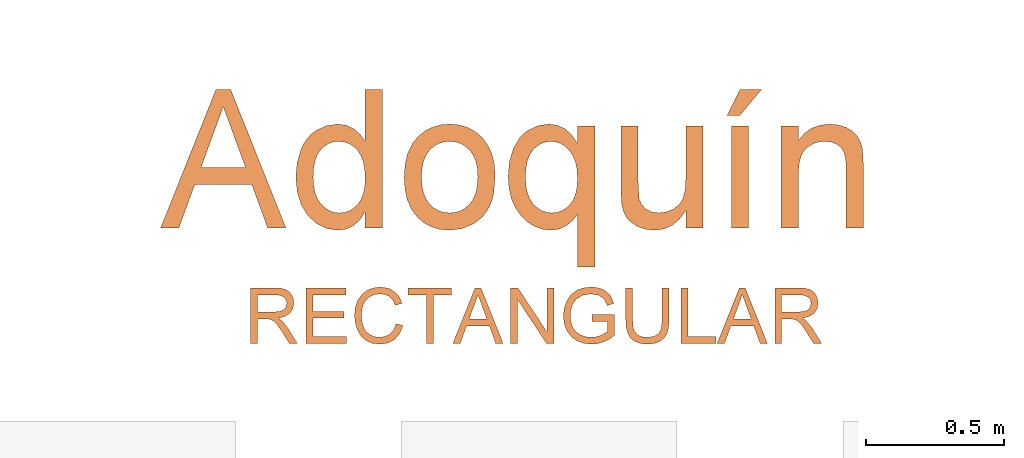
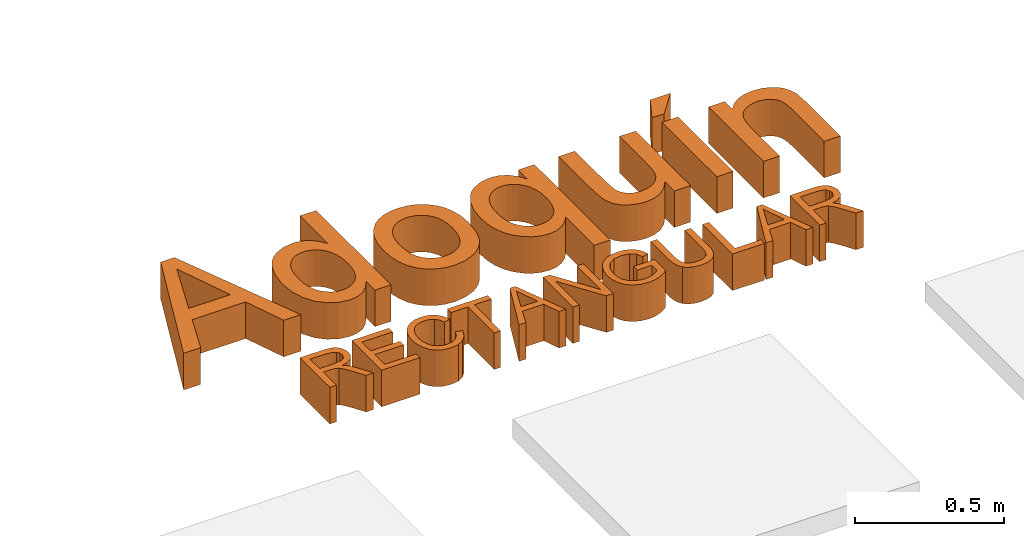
# One storey, part 10 of 19: 2 proxies.
"""IFC2X3 building model written with IfcOpenShell, lengths in metres."""

from ifc_helpers import new_model, entity, si_unit, converted_unit, derived_unit, direction, frame, origin, origin_2d_with_axis, place, context, subcontext, project, spatial, polyline, rectangle, outline, extrude, type_object, element, save


model = new_model("IFC2X3")

# Units and contexts
model_context = context("Model", 3, precision=1e-05, world=origin(), true_north=direction((6.12303176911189e-17, 1.0)))
body_context = subcontext(model_context, "Body", "Model", "MODEL_VIEW")
ifc_project = project(units=[si_unit("LENGTHUNIT", "METRE"), si_unit("AREAUNIT", "SQUARE_METRE"), si_unit("VOLUMEUNIT", "CUBIC_METRE"), converted_unit("PLANEANGLEUNIT", "DEGREE", entity("IfcRatioMeasure", 0.0174532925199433), si_unit("PLANEANGLEUNIT", "RADIAN"), dimensions=[0, 0, 0, 0, 0, 0, 0]), si_unit("MASSUNIT", "GRAM", prefix="KILO"), derived_unit("MASSDENSITYUNIT", [(si_unit("MASSUNIT", "GRAM", prefix="KILO"), 1), (si_unit("LENGTHUNIT", "METRE"), -3)]), derived_unit("MOMENTOFINERTIAUNIT", [(si_unit("LENGTHUNIT", "METRE"), 4)]), si_unit("TIMEUNIT", "SECOND"), si_unit("FREQUENCYUNIT", "HERTZ"), si_unit("THERMODYNAMICTEMPERATUREUNIT", "DEGREE_CELSIUS"), derived_unit("THERMALTRANSMITTANCEUNIT", [(si_unit("MASSUNIT", "GRAM", prefix="KILO"), 1), (si_unit("THERMODYNAMICTEMPERATUREUNIT", "KELVIN"), -1), (si_unit("TIMEUNIT", "SECOND"), -3)]), derived_unit("VOLUMETRICFLOWRATEUNIT", [(si_unit("LENGTHUNIT", "METRE"), 3), (si_unit("TIMEUNIT", "SECOND"), -1)]), si_unit("ELECTRICCURRENTUNIT", "AMPERE"), si_unit("ELECTRICVOLTAGEUNIT", "VOLT"), si_unit("POWERUNIT", "WATT"), si_unit("FORCEUNIT", "NEWTON", prefix="KILO"), si_unit("ILLUMINANCEUNIT", "LUX"), si_unit("LUMINOUSFLUXUNIT", "LUMEN"), si_unit("LUMINOUSINTENSITYUNIT", "CANDELA"), derived_unit("USERDEFINED", [(si_unit("MASSUNIT", "GRAM", prefix="KILO"), -1), (si_unit("LENGTHUNIT", "METRE"), -2), (si_unit("TIMEUNIT", "SECOND"), 3), (si_unit("LUMINOUSFLUXUNIT", "LUMEN"), 1)]), derived_unit("LINEARVELOCITYUNIT", [(si_unit("LENGTHUNIT", "METRE"), 1), (si_unit("TIMEUNIT", "SECOND"), -1)]), si_unit("PRESSUREUNIT", "PASCAL"), derived_unit("USERDEFINED", [(si_unit("LENGTHUNIT", "METRE"), -2), (si_unit("MASSUNIT", "GRAM", prefix="KILO"), 1), (si_unit("TIMEUNIT", "SECOND"), -2)]), derived_unit("LINEARFORCEUNIT", [(si_unit("MASSUNIT", "GRAM", prefix="KILO"), 1), (si_unit("LENGTHUNIT", "METRE"), 1), (si_unit("TIMEUNIT", "SECOND"), -2), (si_unit("LENGTHUNIT", "METRE"), -1)]), derived_unit("PLANARFORCEUNIT", [(si_unit("MASSUNIT", "GRAM", prefix="KILO"), 1), (si_unit("LENGTHUNIT", "METRE"), 1), (si_unit("TIMEUNIT", "SECOND"), -2), (si_unit("LENGTHUNIT", "METRE"), -2)])], contexts=[model_context])

# Site, building, storey
site_placement = place(None, origin())
site = spatial("IfcSite", under=ifc_project, at=site_placement, Name="Default", CompositionType="ELEMENT")
building_placement = place(site_placement, origin())
building = spatial("IfcBuilding", under=site, at=building_placement, CompositionType="ELEMENT")
storey_placement = place(building_placement, origin())
storey = spatial("IfcBuildingStorey", under=building, at=storey_placement, Name="Nivel 1", CompositionType="ELEMENT", Elevation=0.0)

# Proxies
building_element_proxy_type_1 = type_object("IfcBuildingElementProxyType", Name="Texto de modelo:Título", PredefinedType="NOTDEFINED")
proxy_1_placement = place(storey_placement, origin())
element("IfcBuildingElementProxy", 1, at=proxy_1_placement, inside=storey, type_object=building_element_proxy_type_1, Name="Texto de modelo:Título", ObjectType="Texto de modelo:Título", context=body_context, shape_type="SweptSolid", body=[
    extrude(outline(polyline([(-0.227151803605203, -0.164811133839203), (-0.160933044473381, -0.164811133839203), (-0.103543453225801, -0.00784814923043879), (0.103451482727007, -0.00784814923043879), (0.160841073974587, -0.164811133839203), (0.227182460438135, -0.164811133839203), (0.026809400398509, 0.337470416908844), (-0.0266561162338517, 0.337470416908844), (-0.227151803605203, -0.164811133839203)]), holes=[polyline([(-0.0804895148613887, 0.0549370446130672), (-0.0313159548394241, 0.189213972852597), (-4.59852493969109e-05, 0.274685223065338), (0.0351480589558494, 0.178422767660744), (0.0805201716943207, 0.0549370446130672), (-0.0804895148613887, 0.0549370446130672)])]), frame((1.70713557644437, 3.07833883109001, 0.0)), (0.0, 0.0, 1.0), 0.15),
    extrude(outline(polyline([(0.11160279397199, -0.204691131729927), (0.174387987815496, -0.204691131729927), (0.174387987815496, 0.29759041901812), (0.11160279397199, 0.29759041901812), (0.11160279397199, 0.110461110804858), (0.093300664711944, 0.135247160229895), (0.0702773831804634, 0.154913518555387), (0.0431154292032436, 0.167743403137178), (0.0123972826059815, 0.172020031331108), (-0.0297711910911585, 0.166041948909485), (-0.0677396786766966, 0.148107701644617), (-0.084554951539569, 0.134840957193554), (-0.0991322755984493, 0.118953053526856), (-0.111471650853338, 0.100443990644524), (-0.121573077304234, 0.0793137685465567), (-0.135046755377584, 0.0318876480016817), (-0.139537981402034, -0.0206275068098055), (-0.134663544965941, -0.0738017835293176), (-0.120040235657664, -0.120507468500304), (-0.096557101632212, -0.159181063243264), (-0.0651031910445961, -0.188259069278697), (-0.0279471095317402, -0.206469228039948), (0.0126425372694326, -0.212539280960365), (0.0433376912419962, -0.208346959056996), (0.0700627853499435, -0.19576999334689), (0.0928178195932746, -0.174808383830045), (0.11160279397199, -0.145462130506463), (0.11160279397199, -0.204691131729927)]), holes=[polyline([(-0.0767527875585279, -0.0203822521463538), (-0.0750973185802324, 0.0109681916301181), (-0.0701309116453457, 0.0378197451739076), (-0.0618535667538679, 0.0601724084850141), (-0.050265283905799, 0.0780261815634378), (-0.0362014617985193, 0.0916799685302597), (-0.0204974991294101, 0.101432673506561), (-0.00315339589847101, 0.107284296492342), (0.0158308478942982, 0.109234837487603), (0.035263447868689, 0.107203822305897), (0.0530942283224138, 0.101110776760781), (0.0693231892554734, 0.0909557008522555), (0.0839503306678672, 0.0767385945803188), (0.0960482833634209, 0.0581835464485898), (0.104689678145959, 0.0350146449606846), (0.109874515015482, 0.00723189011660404), (0.11160279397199, -0.0251647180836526), (0.109905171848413, -0.0547140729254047), (0.104812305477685, -0.0802090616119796), (0.0963241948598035, -0.101649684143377), (0.0844408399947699, -0.119035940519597), (0.0701279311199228, -0.132475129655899), (0.0543511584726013, -0.142074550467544), (0.0371105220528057, -0.14783420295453), (0.0184060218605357, -0.149754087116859), (-0.000210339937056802, -0.147742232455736), (-0.0175544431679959, -0.141706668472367), (-0.033626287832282, -0.131647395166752), (-0.048425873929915, -0.11756441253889), (-0.0608188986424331, -0.0994193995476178), (-0.0696710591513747, -0.0771740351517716), (-0.0749823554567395, -0.0508283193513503), (-0.0767527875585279, -0.0203822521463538)])]), frame((2.10954057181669, 3.11821882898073, 0.0)), (0.0, 0.0, 1.0), 0.15),
    extrude(outline(polyline([(-0.0131957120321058, -0.170548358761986), (0.0307665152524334, -0.170548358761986), (0.0696520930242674, -0.164512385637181), (0.103461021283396, -0.152440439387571), (0.132193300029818, -0.134332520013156), (0.155411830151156, -0.111243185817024), (0.172679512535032, -0.0842269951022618), (0.183996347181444, -0.0532839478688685), (0.189362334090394, -0.0184140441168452), (0.186618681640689, 0.0261717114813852), (0.172415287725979, 0.067906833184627), (0.161237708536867, 0.086976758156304), (0.147638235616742, 0.103876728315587), (0.131616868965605, 0.118606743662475), (0.113173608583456, 0.131166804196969), (0.0915479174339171, 0.141494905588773), (0.0659792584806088, 0.149529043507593), (0.00301303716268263, 0.158715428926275), (-0.0385534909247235, 0.158529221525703), (-0.0757586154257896, 0.15229201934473), (-0.108602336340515, 0.140003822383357), (-0.137084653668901, 0.121664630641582), (-0.160392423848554, 0.0984428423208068), (-0.177712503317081, 0.0715068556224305), (-0.189044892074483, 0.0408566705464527), (-0.194389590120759, 0.00649228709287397), (-0.1938749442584, -0.024984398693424), (-0.18810582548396, -0.0543136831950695), (-0.177082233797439, -0.0814955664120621), (-0.160804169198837, -0.106530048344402), (-0.134450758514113, -0.132057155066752), (-0.101064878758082, -0.151235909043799), (-0.060646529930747, -0.164066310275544), (-0.0131957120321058, -0.170548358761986)]), holes=[polyline([(-0.00925174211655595, -0.107887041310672), (-0.0395162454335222, -0.104102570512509), (-0.0654537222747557, -0.0969584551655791), (-0.0870641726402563, -0.0864546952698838), (-0.104347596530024, -0.0725912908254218), (-0.117399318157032, -0.0562452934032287), (-0.126314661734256, -0.0382937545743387), (-0.131093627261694, -0.0187366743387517), (-0.131736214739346, 0.00242594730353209), (-0.128372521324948, 0.0230712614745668), (-0.121092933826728, 0.0416882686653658), (-0.109897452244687, 0.0582769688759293), (-0.0947860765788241, 0.0728373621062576), (-0.0759345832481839, 0.0844361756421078), (-0.0535187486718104, 0.0921401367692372), (-0.0275385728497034, 0.0959492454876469), (0.00200594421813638, 0.0958635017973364), (0.0329855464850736, 0.0920326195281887), (0.0594775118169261, 0.0848525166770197), (0.0814818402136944, 0.07432319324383), (0.0989985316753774, 0.0604446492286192), (0.112185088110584, 0.0441052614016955), (0.121199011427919, 0.0261934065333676), (0.126040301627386, 0.00670908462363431), (0.126708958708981, -0.0143477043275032), (0.123328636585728, -0.0352492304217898), (0.116038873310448, -0.0540230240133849), (0.10483966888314, -0.0706690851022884), (0.0897310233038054, -0.0851874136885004), (0.070747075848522, -0.0966969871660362), (0.0479219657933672, -0.10431678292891), (0.0212556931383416, -0.108046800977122), (-0.00925174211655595, -0.107887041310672)])]), frame((2.53345497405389, 3.09583691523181, 0.0), z_axis=(0.0, 0.0, 1.0), x_axis=(0.0647659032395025, -0.997900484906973, 0.0)), (0.0, 0.0, 1.0), 0.15),
    extrude(outline(polyline([(0.113122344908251, -0.311998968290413), (0.175907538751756, -0.311998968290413), (0.175907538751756, 0.198130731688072), (0.113122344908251, 0.198130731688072), (0.113122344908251, 0.135590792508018), (0.0926742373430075, 0.166385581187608), (0.0687312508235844, 0.188381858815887), (0.041293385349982, 0.201579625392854), (0.0103606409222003, 0.20597888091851), (-0.0296465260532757, 0.200307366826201), (-0.0662814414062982, 0.183292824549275), (-0.0827211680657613, 0.170616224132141), (-0.0970915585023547, 0.155272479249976), (-0.119624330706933, 0.11658355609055), (-0.133419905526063, 0.0697092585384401), (-0.138018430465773, 0.0171327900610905), (-0.135121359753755, -0.025997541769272), (-0.126430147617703, -0.0642764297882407), (-0.111944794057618, -0.097703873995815), (-0.091665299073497, -0.126279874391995), (-0.0673774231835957, -0.149161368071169), (-0.0408669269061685, -0.165505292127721), (-0.0121338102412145, -0.175311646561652), (0.0188219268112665, -0.178580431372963), (0.0468422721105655, -0.174441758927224), (0.0732684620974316, -0.162025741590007), (0.096046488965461, -0.143355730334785), (0.113122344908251, -0.12045507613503), (0.113122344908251, -0.311998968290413)]), holes=[polyline([(-0.0752332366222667, 0.0136992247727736), (-0.073558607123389, 0.0447967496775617), (-0.0685347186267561, 0.0715026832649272), (-0.0601615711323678, 0.0938170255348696), (-0.0484391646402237, 0.111739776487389), (-0.034310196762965, 0.125500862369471), (-0.018717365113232, 0.1353302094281), (-0.00166066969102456, 0.141227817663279), (0.0168598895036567, 0.143193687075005), (0.0356103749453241, 0.141082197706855), (0.0531115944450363, 0.134747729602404), (0.0693635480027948, 0.124190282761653), (0.084366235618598, 0.109409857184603), (0.0969470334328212, 0.0904447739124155), (0.105933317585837, 0.067333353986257), (0.111325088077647, 0.0400755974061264), (0.113122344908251, 0.00867150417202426), (0.111417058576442, -0.0207743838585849), (0.106301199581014, -0.0462042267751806), (0.0977747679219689, -0.0676180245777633), (0.0858377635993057, -0.085015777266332), (0.0715401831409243, -0.0984817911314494), (0.0559320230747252, -0.108100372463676), (0.0390132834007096, -0.113871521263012), (0.0207839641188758, -0.115795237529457), (0.00174223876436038, -0.113771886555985), (-0.0158969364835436, -0.107701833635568), (-0.0321335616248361, -0.0975850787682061), (-0.0469676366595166, -0.0834216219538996), (-0.0593338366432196, -0.0652114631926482), (-0.0681668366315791, -0.0429546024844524), (-0.0734666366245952, -0.0166510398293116), (-0.0752332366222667, 0.0136992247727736)])]), frame((2.87713964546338, 3.08425997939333, 0.0)), (0.0, 0.0, 1.0), 0.15),
    extrude(outline(polyline([(0.0993741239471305, -0.10269783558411), (0.162159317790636, -0.10269783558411), (0.162159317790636, 0.266165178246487), (0.0993741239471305, 0.266165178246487), (0.0993741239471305, 0.0742534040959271), (0.0968296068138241, 0.0338323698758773), (0.0891960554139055, 0.00429451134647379), (0.0754464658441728, -0.0172725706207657), (0.0545538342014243, -0.0337812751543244), (0.029215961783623, -0.0442659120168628), (0.00213064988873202, -0.0477607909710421), (-0.0234831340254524, -0.0443425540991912), (-0.044651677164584, -0.0340878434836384), (-0.0603326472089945, -0.0178550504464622), (-0.0694837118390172, 0.0034974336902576), (-0.0732851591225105, 0.0675089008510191), (-0.0732851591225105, 0.266165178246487), (-0.136070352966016, 0.266165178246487), (-0.136070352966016, 0.0379557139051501), (-0.132391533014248, -0.0204148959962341), (-0.125018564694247, -0.0456454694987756), (-0.113690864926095, -0.0666454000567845), (-0.0968602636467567, -0.0839358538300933), (-0.072978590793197, -0.0980379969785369), (-0.0445137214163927, -0.107418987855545), (-0.0139335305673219, -0.110545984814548), (0.0200035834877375, -0.106093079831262), (0.0502005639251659, -0.0927343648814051), (0.0766574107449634, -0.0704698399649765), (0.0993741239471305, -0.0392995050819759), (0.0993741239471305, -0.10269783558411)])), frame((3.28329532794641, 3.01622553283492, 0.0)), (0.0, 0.0, 1.0), 0.15),
    extrude(outline(polyline([(-0.0549370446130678, -0.0470888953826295), (-0.00784814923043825, -0.0470888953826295), (0.0706333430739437, 0.0470888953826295), (-0.00784814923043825, 0.0470888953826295), (-0.0549370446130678, -0.0470888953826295)])), frame((3.58672133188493, 3.36872035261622, 0.0)), (0.0, 0.0, 1.0), 0.15),
    extrude(outline(polyline([(-0.160354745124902, -0.269066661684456), (-0.0975695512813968, -0.269066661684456), (-0.0975695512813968, -0.0733534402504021), (-0.0957799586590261, -0.0416619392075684), (-0.090411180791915, -0.0155039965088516), (-0.0814632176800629, 0.0051203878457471), (-0.0689360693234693, 0.0202112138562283), (-0.0539410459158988, 0.0309947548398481), (-0.0375894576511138, 0.0386972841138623), (-0.0198813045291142, 0.0433188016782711), (-0.000816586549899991, 0.0448593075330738), (0.0223446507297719, 0.0421155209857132), (0.0422869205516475, 0.0338841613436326), (0.0578452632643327, 0.021054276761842), (0.0678547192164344, 0.00451491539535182), (0.0732809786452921, -0.0185696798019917), (0.0750897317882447, -0.0510352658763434), (0.0750897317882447, -0.269066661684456), (0.137874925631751, -0.269066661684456), (0.137874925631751, -0.0425739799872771), (0.134563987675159, 0.0181265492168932), (0.127160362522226, 0.0430352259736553), (0.11574069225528, 0.0642957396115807), (0.098910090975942, 0.0818621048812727), (0.0752736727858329, 0.0956883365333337), (0.0469314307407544, 0.104655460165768), (0.0159833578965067, 0.107644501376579), (-0.0189807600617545, 0.10393502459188), (-0.0495609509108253, 0.0928065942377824), (-0.0757572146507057, 0.0742592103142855), (-0.0975695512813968, 0.0482928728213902), (-0.0975695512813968, 0.099796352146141), (-0.160354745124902, 0.099796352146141), (-0.160354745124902, -0.269066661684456)])), frame((3.88834276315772, 3.18259435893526, 0.0)), (0.0, 0.0, 1.0), 0.15),
    extrude(rectangle(XDim=0.062785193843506, YDim=0.368863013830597, at=origin_2d_with_axis()), frame((3.57887318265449, 3.09795920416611, 0.0)), (0.0, 0.0, 1.0), 0.15),
])
building_element_proxy_type_2 = type_object("IfcBuildingElementProxyType", Name="Texto de modelo:Subtítulo", PredefinedType="NOTDEFINED")
proxy_2_placement = place(storey_placement, origin())
element("IfcBuildingElementProxy", 2, at=proxy_2_placement, inside=storey, type_object=building_element_proxy_type_2, Name="Texto de modelo:Subtítulo", ObjectType="Texto de modelo:Subtítulo", context=body_context, shape_type="SweptSolid", body=[
    extrude(outline(polyline([(-0.103134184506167, -0.103507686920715), (-0.0780201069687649, -0.103507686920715), (-0.0780201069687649, -0.0156084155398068), (-0.0477066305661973, -0.0156084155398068), (-0.0331385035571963, -0.0164913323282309), (-0.0211946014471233, -0.0212737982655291), (-0.00792632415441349, -0.0342968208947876), (0.0109582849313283, -0.0618634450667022), (0.0371024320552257, -0.103507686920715), (0.066287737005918, -0.103507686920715), (0.0327859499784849, -0.0490611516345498), (0.0124298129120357, -0.0232113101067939), (-0.00184400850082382, -0.0124691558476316), (0.0228960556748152, -0.00581049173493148), (0.0402171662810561, 0.00621924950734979), (0.050425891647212, 0.0226267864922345), (0.0538288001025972, 0.0424188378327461), (0.0517747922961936, 0.0583297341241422), (0.0456127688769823, 0.0728058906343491), (0.036011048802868, 0.0844800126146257), (0.0236379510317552, 0.0919848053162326), (0.00670924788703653, 0.0960499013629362), (-0.0165592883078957, 0.0974049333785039), (-0.103134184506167, 0.0974049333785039), (-0.103134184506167, -0.103507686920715)]), holes=[polyline([(-0.0780201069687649, 0.00950566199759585), (-0.0780201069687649, 0.0722908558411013), (-0.0154801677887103, 0.0722908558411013), (0.00439159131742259, 0.0701203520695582), (0.0180951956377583, 0.063608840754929), (0.0260598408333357, 0.0537373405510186), (0.0287147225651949, 0.0414868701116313), (0.0231474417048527, 0.0244416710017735), (0.0162925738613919, 0.0176849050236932), (0.00686253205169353, 0.0130618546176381), (-0.0218077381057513, 0.00950566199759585), (-0.0780201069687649, 0.00950566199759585)])]), frame((1.90896535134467, 2.5993804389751, 0.0)), (0.0, 0.0, 1.0), 0.15),
    extrude(outline(polyline([(-0.0800511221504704, -0.101502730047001), (0.0674940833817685, -0.101502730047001), (0.0674940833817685, -0.0763886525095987), (-0.0549370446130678, -0.0763886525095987), (-0.0549370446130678, -0.0104641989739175), (0.0580763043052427, -0.0104641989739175), (0.0580763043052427, 0.0146498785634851), (-0.0549370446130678, 0.0146498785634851), (-0.0549370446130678, 0.0742958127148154), (0.0643548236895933, 0.0742958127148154), (0.0643548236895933, 0.099409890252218), (-0.0800511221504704, 0.099409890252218), (-0.0800511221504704, -0.101502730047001)])), frame((2.08679490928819, 2.59737548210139, 0.0)), (0.0, 0.0, 1.0), 0.15),
    extrude(outline(polyline([(0.00355232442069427, -0.0754517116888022), (0.000735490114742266, -0.101233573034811), (0.0322073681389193, -0.10073341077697), (0.0586340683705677, -0.0912753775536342), (0.0793092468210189, -0.0735495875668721), (0.0935265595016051, -0.0482461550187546), (0.100733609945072, -0.0198295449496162), (0.0996500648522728, 0.00530853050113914), (0.0908072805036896, 0.0276031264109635), (0.0747366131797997, 0.0474892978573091), (0.0532622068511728, 0.064035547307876), (0.0282082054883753, 0.0763103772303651), (-0.000248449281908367, 0.0838799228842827), (-0.02706681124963, 0.0844731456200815), (-0.0513308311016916, 0.0782421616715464), (-0.0721244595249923, 0.0653390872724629), (-0.0887450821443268, 0.0469994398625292), (-0.10049008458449, 0.0244587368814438), (-0.106560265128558, -0.00268319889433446), (-0.103625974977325, -0.0281270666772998), (-0.0921127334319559, -0.0509518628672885), (-0.0724460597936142, -0.070236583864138), (-0.0579739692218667, -0.048857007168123), (-0.0720305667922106, -0.0342408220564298), (-0.0795803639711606, -0.0186741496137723), (-0.0809958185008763, -0.00185900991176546), (-0.0766493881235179, 0.0165025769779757), (-0.0665154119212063, 0.0357323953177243), (-0.0527173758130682, 0.049462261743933), (-0.036196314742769, 0.0575953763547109), (-0.0178932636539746, 0.0600349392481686), (0.000999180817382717, 0.0580310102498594), (0.0192884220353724, 0.0528336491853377), (0.0403234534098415, 0.0428633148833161), (0.0570828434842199, 0.0304574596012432), (0.068773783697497, 0.0156861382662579), (0.0746034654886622, -0.00138059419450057), (0.0751312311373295, -0.0194006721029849), (0.0709164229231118, -0.0370320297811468), (0.0605954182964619, -0.055542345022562), (0.0456816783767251, -0.068582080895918), (0.0265442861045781, -0.0754517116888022), (0.00355232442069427, -0.0754517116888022)])), frame((2.26389738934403, 2.59727446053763, 0.0), z_axis=(0.0, 0.0, -1.0), x_axis=(-0.353343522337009, -0.935493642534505, 0.0)), (0.0, 0.0, -1.0), 0.15),
    extrude(outline(polyline([(-0.0125570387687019, -0.138127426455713), (0.0125570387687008, -0.138127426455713), (0.0125570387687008, 0.0376711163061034), (0.078481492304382, 0.0376711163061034), (0.078481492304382, 0.062785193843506), (-0.0784814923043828, 0.062785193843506), (-0.0784814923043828, 0.0376711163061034), (-0.0125570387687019, 0.0376711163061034), (-0.0125570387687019, -0.138127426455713)])), frame((2.45565792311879, 2.6340001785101, 0.0)), (0.0, 0.0, 1.0), 0.15),
    extrude(outline(polyline([(-0.0908607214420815, -0.0659244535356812), (-0.064373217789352, -0.0659244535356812), (-0.0414173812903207, -0.00313925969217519), (0.0413805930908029, -0.00313925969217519), (0.0643364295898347, -0.0659244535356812), (0.0908729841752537, -0.0659244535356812), (0.0107237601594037, 0.134988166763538), (-0.0106624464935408, 0.134988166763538), (-0.0908607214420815, -0.0659244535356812)]), holes=[polyline([(-0.0321958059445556, 0.0219748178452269), (-0.0125263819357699, 0.0756855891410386), (-1.83940997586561e-05, 0.109874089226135), (0.0140592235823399, 0.0713691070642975), (0.0322080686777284, 0.0219748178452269), (-0.0321958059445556, 0.0219748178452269)])]), frame((2.62990523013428, 2.56179720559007, 0.0)), (0.0, 0.0, 1.0), 0.15),
    extrude(outline(polyline([(-0.078481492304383, -0.100461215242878), (-0.0533674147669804, -0.100461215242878), (-0.0533674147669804, 0.0587581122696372), (0.051601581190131, -0.100461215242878), (0.078481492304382, -0.100461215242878), (0.078481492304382, 0.10045140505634), (0.0533674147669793, 0.10045140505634), (0.0533674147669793, -0.0587188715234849), (-0.0516015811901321, 0.10045140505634), (-0.078481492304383, 0.10045140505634), (-0.078481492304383, -0.100461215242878)])), frame((2.82609056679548, 2.59633396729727, 0.0)), (0.0, 0.0, 1.0), 0.15),
    extrude(outline(polyline([(0.0115761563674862, 0.0209664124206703), (0.0115761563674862, -0.00414766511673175), (0.0931969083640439, -0.00414766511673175), (0.0931969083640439, 0.0709493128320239), (0.0733619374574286, 0.0847448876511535), (0.0529015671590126, 0.0946409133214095), (0.0318648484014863, 0.100600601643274), (0.0103008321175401, 0.102587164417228), (-0.0178727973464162, 0.0994295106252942), (-0.0433363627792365, 0.0899565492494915), (-0.0644895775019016, 0.0744993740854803), (-0.0797321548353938, 0.0533890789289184), (-0.0889475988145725, 0.0280665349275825), (-0.0920194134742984, -2.73867707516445e-05), (-0.0889598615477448, -0.0283236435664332), (-0.0797812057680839, -0.0546456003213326), (-0.0648635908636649, -0.0767246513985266), (-0.0445871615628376, -0.0922921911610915), (-0.0198900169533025, -0.101526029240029), (0.00828974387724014, -0.104603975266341), (0.0289769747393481, -0.102819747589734), (0.0475795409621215, -0.0974670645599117), (0.0632451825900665, -0.0889322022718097), (0.0751216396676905, -0.0776014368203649), (0.0839078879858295, -0.0629290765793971), (0.0903029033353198, -0.0443694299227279), (0.067150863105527, -0.0378456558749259), (0.0556974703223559, -0.0610712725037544), (0.0361261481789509, -0.0744621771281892), (0.00789733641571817, -0.0794898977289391), (-0.0242555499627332, -0.0740697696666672), (-0.0461322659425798, -0.0598449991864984), (-0.059057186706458, -0.0404944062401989), (-0.0649432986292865, -0.0215362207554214), (-0.0669053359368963, -0.00105745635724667), (-0.0645447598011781, 0.0229591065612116), (-0.0574630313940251, 0.0427205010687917), (-0.0458747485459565, 0.0580857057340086), (-0.0299945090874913, 0.0689136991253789), (-0.0114103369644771, 0.0753332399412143), (0.00828974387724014, 0.0774730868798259), (0.0256844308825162, 0.0758605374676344), (0.0426499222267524, 0.0710228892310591), (0.0680828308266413, 0.0572641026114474), (0.0680828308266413, 0.0209664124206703), (0.0115761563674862, 0.0209664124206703)])), frame((3.03112332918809, 2.59532065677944, 0.0), z_axis=(0.0, 0.0, -1.0), x_axis=(1.0, 0.0, 0.0)), (0.0, 0.0, -1.0), 0.15),
    extrude(outline(polyline([(-0.13955778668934, -0.0559653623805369), (-0.13955778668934, -0.0810794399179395), (-0.0236504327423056, -0.0810794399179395), (0.00349312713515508, -0.0793749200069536), (0.0243949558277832, -0.0742613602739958), (0.0405204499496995, -0.0647086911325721), (0.0533350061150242, -0.0496868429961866), (0.0617043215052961, -0.0291590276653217), (0.0644940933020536, -0.00308845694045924), (0.0620660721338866, 0.0224118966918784), (0.0547820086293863, 0.0427986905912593), (0.0428932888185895, 0.0580780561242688), (0.0266512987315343, 0.0682561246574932), (0.00486655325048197, 0.0739766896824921), (-0.0236504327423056, 0.0758835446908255), (-0.13955778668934, 0.0758835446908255), (-0.13955778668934, 0.0507694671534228), (-0.0245333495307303, 0.0507694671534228), (-0.00196378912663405, 0.049530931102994), (0.0137509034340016, 0.0458153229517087), (0.0246340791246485, 0.0390830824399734), (0.0327090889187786, 0.028794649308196), (0.0377122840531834, 0.0153792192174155), (0.0393800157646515, -0.000734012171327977), (0.0360813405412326, -0.0262772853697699), (0.0261853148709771, -0.0432611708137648), (0.00690829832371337, -0.0527893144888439), (-0.0245333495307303, -0.0559653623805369), (-0.13955778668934, -0.0559653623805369)])), frame((3.24101415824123, 2.55722758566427, 0.0), z_axis=(0.0, 0.0, -1.0), x_axis=(0.0, -1.0, 0.0)), (0.0, 0.0, -1.0), 0.15),
    extrude(outline(polyline([(-0.0502281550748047, -0.0753422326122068), (0.0753422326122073, -0.0753422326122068), (0.0753422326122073, -0.0502281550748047), (-0.0251140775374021, -0.0502281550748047), (-0.0251140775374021, 0.125570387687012), (-0.0502281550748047, 0.125570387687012), (-0.0502281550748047, -0.0753422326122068)])), frame((3.41627138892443, 2.57121498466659, 0.0)), (0.0, 0.0, 1.0), 0.15),
    extrude(outline(polyline([(-0.0908607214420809, -0.0659244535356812), (-0.064373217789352, -0.0659244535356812), (-0.0414173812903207, -0.00313925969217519), (0.0413805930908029, -0.00313925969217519), (0.0643364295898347, -0.0659244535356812), (0.0908729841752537, -0.0659244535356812), (0.0107237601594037, 0.134988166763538), (-0.0106624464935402, 0.134988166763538), (-0.0908607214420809, -0.0659244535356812)]), holes=[polyline([(-0.0321958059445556, 0.0219748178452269), (-0.0125263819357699, 0.0756855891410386), (-1.83940997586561e-05, 0.109874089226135), (0.0140592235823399, 0.0713691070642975), (0.0322080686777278, 0.0219748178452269), (-0.0321958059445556, 0.0219748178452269)])]), frame((3.58737943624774, 2.56179720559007, 0.0)), (0.0, 0.0, 1.0), 0.15),
    extrude(outline(polyline([(-0.103134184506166, -0.103507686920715), (-0.0780201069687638, -0.103507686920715), (-0.0780201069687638, -0.0156084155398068), (-0.0477066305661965, -0.0156084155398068), (-0.0331385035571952, -0.0164913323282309), (-0.0211946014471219, -0.0212737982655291), (-0.0079263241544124, -0.0342968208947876), (0.0109582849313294, -0.0618634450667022), (0.0371024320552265, -0.103507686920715), (0.0662877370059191, -0.103507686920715), (0.032785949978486, -0.0490611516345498), (0.012429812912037, -0.0232113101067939), (-0.001844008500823, -0.0124691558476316), (0.0228960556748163, -0.00581049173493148), (0.0402171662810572, 0.00621924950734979), (0.0504258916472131, 0.0226267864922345), (0.0538288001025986, 0.0424188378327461), (0.0517747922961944, 0.0583297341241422), (0.0456127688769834, 0.0728058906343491), (0.0360110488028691, 0.0844800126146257), (0.023637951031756, 0.0919848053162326), (0.00670924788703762, 0.0960499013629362), (-0.0165592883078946, 0.0974049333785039), (-0.103134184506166, 0.0974049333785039), (-0.103134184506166, -0.103507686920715)]), holes=[polyline([(-0.0780201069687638, 0.00950566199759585), (-0.0780201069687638, 0.0722908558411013), (-0.0154801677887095, 0.0722908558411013), (0.00439159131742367, 0.0701203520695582), (0.0180951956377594, 0.063608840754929), (0.0260598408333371, 0.0537373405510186), (0.028714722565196, 0.0414868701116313), (0.0231474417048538, 0.0244416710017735), (0.0162925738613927, 0.0176849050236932), (0.00686253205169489, 0.0130618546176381), (-0.0218077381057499, 0.00950566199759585), (-0.0780201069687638, 0.00950566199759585)])]), frame((3.80821746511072, 2.5993804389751, 0.0)), (0.0, 0.0, 1.0), 0.15),
])

save(model, "model.ifc")
